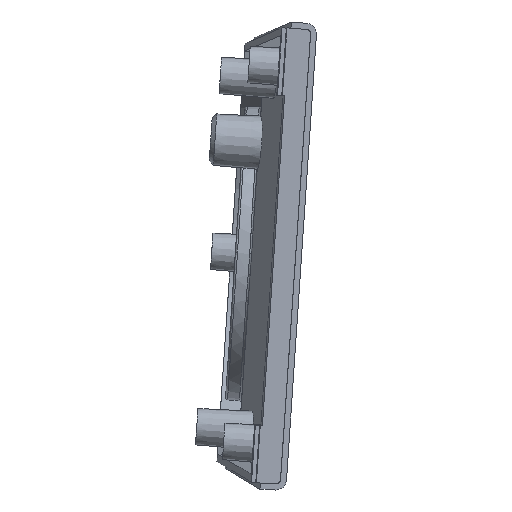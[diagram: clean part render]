
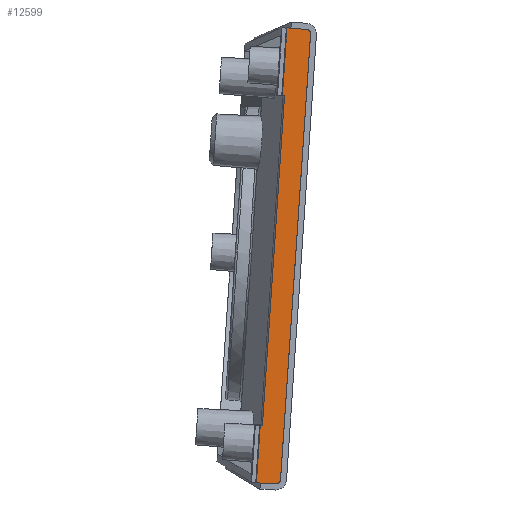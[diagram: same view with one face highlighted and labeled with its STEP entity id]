
A CAD part, front view. The second image highlights one B-rep face of the part: STEP entity #12599.
In plain terms, the highlighted planar face has unit normal (-0.017, -1, 0.001).
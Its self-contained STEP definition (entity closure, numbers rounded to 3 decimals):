
#1 = VECTOR ( 'NONE', #9922, 1000. ) ;
#610 = VERTEX_POINT ( 'NONE', #11545 ) ;
#686 = CARTESIAN_POINT ( 'NONE',  ( -68.91, -44.251, 128.728 ) ) ;
#789 = ORIENTED_EDGE ( 'NONE', *, *, #3474, .T. ) ;
#840 = DIRECTION ( 'NONE',  ( -1., 0.017, 0. ) ) ;
#842 = LINE ( 'NONE', #12678, #1853 ) ;
#1006 = VECTOR ( 'NONE', #4846, 1000. ) ;
#1052 = DIRECTION ( 'NONE',  ( 0.999, -0.017, -0.051 ) ) ;
#1086 = CARTESIAN_POINT ( 'NONE',  ( -63.845, -44.233, 218.986 ) ) ;
#1164 = LINE ( 'NONE', #11381, #10561 ) ;
#1202 = EDGE_CURVE ( 'NONE', #7724, #14503, #12303, .T. ) ;
#1259 = VECTOR ( 'NONE', #13420, 1000. ) ;
#1398 = LINE ( 'NONE', #16370, #1 ) ;
#1410 = ORIENTED_EDGE ( 'NONE', *, *, #14074, .F. ) ;
#1430 = VERTEX_POINT ( 'NONE', #13160 ) ;
#1651 = FACE_OUTER_BOUND ( 'NONE', #16613, .T. ) ;
#1796 = CARTESIAN_POINT ( 'NONE',  ( -68.516, -44.242, 142.126 ) ) ;
#1853 = VECTOR ( 'NONE', #8810, 1000. ) ;
#2080 = EDGE_CURVE ( 'NONE', #610, #13679, #1164, .T. ) ;
#2224 = CARTESIAN_POINT ( 'NONE',  ( -57.378, -44.328, 233.865 ) ) ;
#2493 = ORIENTED_EDGE ( 'NONE', *, *, #2080, .T. ) ;
#2679 = LINE ( 'NONE', #5944, #1006 ) ;
#2721 = CARTESIAN_POINT ( 'NONE',  ( -69.915, -44.233, 128.779 ) ) ;
#2740 = CARTESIAN_POINT ( 'NONE',  ( -64.317, -44.33, 129.209 ) ) ;
#2864 = ORIENTED_EDGE ( 'NONE', *, *, #12028, .F. ) ;
#3032 = VERTEX_POINT ( 'NONE', #3094 ) ;
#3094 = CARTESIAN_POINT ( 'NONE',  ( -64.299, -44.33, 129.465 ) ) ;
#3474 = EDGE_CURVE ( 'NONE', #15383, #1430, #12629, .T. ) ;
#3528 = LINE ( 'NONE', #6660, #7992 ) ;
#3558 = CARTESIAN_POINT ( 'NONE',  ( -57.713, -44.322, 234.253 ) ) ;
#3636 = CARTESIAN_POINT ( 'NONE',  ( -61.779, -44.251, 234.701 ) ) ;
#3712 = VECTOR ( 'NONE', #10245, 1000. ) ;
#3732 = CARTESIAN_POINT ( 'NONE',  ( -57.292, -44.33, 233.607 ) ) ;
#3736 = VECTOR ( 'NONE', #12974, 1000. ) ;
#4268 = DIRECTION ( 'NONE',  ( -0.998, 0.017, 0.067 ) ) ;
#4271 = CARTESIAN_POINT ( 'NONE',  ( -68.911, -44.251, 128.726 ) ) ;
#4303 = VERTEX_POINT ( 'NONE', #3636 ) ;
#4309 = VECTOR ( 'NONE', #12756, 1000. ) ;
#4332 = CARTESIAN_POINT ( 'NONE',  ( -68.516, -44.242, 142.126 ) ) ;
#4622 = DIRECTION ( 'NONE',  ( 0.067, 0., 0.998 ) ) ;
#4755 = LINE ( 'NONE', #10265, #3736 ) ;
#4846 = DIRECTION ( 'NONE',  ( 0.073, 0., 0.997 ) ) ;
#5143 = ORIENTED_EDGE ( 'NONE', *, *, #14559, .F. ) ;
#5230 = EDGE_CURVE ( 'NONE', #7759, #14523, #15368, .T. ) ;
#5469 = ORIENTED_EDGE ( 'NONE', *, *, #8444, .F. ) ;
#5549 = VERTEX_POINT ( 'NONE', #686 ) ;
#5944 = CARTESIAN_POINT ( 'NONE',  ( -61.779, -44.251, 234.699 ) ) ;
#6237 = PLANE ( 'NONE',  #12669 ) ;
#6297 = CARTESIAN_POINT ( 'NONE',  ( -63.845, -44.233, 218.986 ) ) ;
#6301 = CARTESIAN_POINT ( 'NONE',  ( -57.962, -44.317, 234.38 ) ) ;
#6366 = VERTEX_POINT ( 'NONE', #6749 ) ;
#6625 = ORIENTED_EDGE ( 'NONE', *, *, #13257, .F. ) ;
#6660 = CARTESIAN_POINT ( 'NONE',  ( -63.845, -44.233, 218.986 ) ) ;
#6749 = CARTESIAN_POINT ( 'NONE',  ( -62.782, -44.233, 234.783 ) ) ;
#6820 = ORIENTED_EDGE ( 'NONE', *, *, #10316, .T. ) ;
#7466 = EDGE_CURVE ( 'NONE', #14503, #4303, #1398, .T. ) ;
#7547 = CARTESIAN_POINT ( 'NONE',  ( -57.309, -44.33, 233.351 ) ) ;
#7579 = CARTESIAN_POINT ( 'NONE',  ( -63.346, -44.242, 218.952 ) ) ;
#7714 = EDGE_CURVE ( 'NONE', #13679, #3032, #10593, .T. ) ;
#7724 = VERTEX_POINT ( 'NONE', #16994 ) ;
#7759 = VERTEX_POINT ( 'NONE', #6297 ) ;
#7768 = CARTESIAN_POINT ( 'NONE',  ( -64.437, -44.328, 128.965 ) ) ;
#7992 = VECTOR ( 'NONE', #14566, 1000. ) ;
#8194 = LINE ( 'NONE', #4271, #1259 ) ;
#8444 = EDGE_CURVE ( 'NONE', #9660, #4303, #2679, .T. ) ;
#8699 = VECTOR ( 'NONE', #4268, 1000. ) ;
#8730 = VERTEX_POINT ( 'NONE', #15661 ) ;
#8810 = DIRECTION ( 'NONE',  ( 0.996, -0.017, -0.084 ) ) ;
#8906 = CARTESIAN_POINT ( 'NONE',  ( -69.915, -44.233, 128.779 ) ) ;
#8916 = ORIENTED_EDGE ( 'NONE', *, *, #5230, .T. ) ;
#9392 = LINE ( 'NONE', #8906, #3712 ) ;
#9660 = VERTEX_POINT ( 'NONE', #11930 ) ;
#9922 = DIRECTION ( 'NONE',  ( -0.996, 0.017, 0.084 ) ) ;
#10245 = DIRECTION ( 'NONE',  ( 0.999, -0.017, -0.051 ) ) ;
#10265 = CARTESIAN_POINT ( 'NONE',  ( -68.516, -44.242, 142.126 ) ) ;
#10316 = EDGE_CURVE ( 'NONE', #8730, #5549, #9392, .T. ) ;
#10355 = CARTESIAN_POINT ( 'NONE',  ( -58.225, -44.313, 234.403 ) ) ;
#10453 = LINE ( 'NONE', #2721, #13141 ) ;
#10561 = VECTOR ( 'NONE', #1052, 1000. ) ;
#10593 = B_SPLINE_CURVE_WITH_KNOTS ( 'NONE', 3,
 ( #14212, #13979, #15677, #7768, #2740, #15626 ),
 .UNSPECIFIED., .F., .F.,
 ( 4, 2, 4 ),
 ( 0., 0.001, 0.002 ),
 .UNSPECIFIED. ) ;
#11381 = CARTESIAN_POINT ( 'NONE',  ( -68.911, -44.251, 128.726 ) ) ;
#11545 = CARTESIAN_POINT ( 'NONE',  ( -68.911, -44.251, 128.726 ) ) ;
#11622 = ORIENTED_EDGE ( 'NONE', *, *, #7466, .T. ) ;
#11930 = CARTESIAN_POINT ( 'NONE',  ( -61.779, -44.251, 234.699 ) ) ;
#12028 = EDGE_CURVE ( 'NONE', #15383, #14523, #4755, .T. ) ;
#12276 = CARTESIAN_POINT ( 'NONE',  ( -64.299, -44.33, 129.465 ) ) ;
#12303 = B_SPLINE_CURVE_WITH_KNOTS ( 'NONE', 3,
 ( #7547, #3732, #2224, #3558, #6301, #14156 ),
 .UNSPECIFIED., .F., .F.,
 ( 4, 2, 4 ),
 ( 0., 0.001, 0.002 ),
 .UNSPECIFIED. ) ;
#12524 = ORIENTED_EDGE ( 'NONE', *, *, #1202, .T. ) ;
#12599 = ADVANCED_FACE ( 'NONE', ( #1651 ), #6237, .F. ) ;
#12629 = LINE ( 'NONE', #4332, #8699 ) ;
#12669 = AXIS2_PLACEMENT_3D ( 'NONE', #13902, #12755, #840 ) ;
#12678 = CARTESIAN_POINT ( 'NONE',  ( -62.782, -44.233, 234.783 ) ) ;
#12755 = DIRECTION ( 'NONE',  ( 0.017, 1., -0.001 ) ) ;
#12756 = DIRECTION ( 'NONE',  ( 0.998, -0.017, -0.067 ) ) ;
#12915 = VECTOR ( 'NONE', #4622, 1000. ) ;
#12974 = DIRECTION ( 'NONE',  ( 0.067, 0., 0.998 ) ) ;
#13141 = VECTOR ( 'NONE', #15923, 1000. ) ;
#13160 = CARTESIAN_POINT ( 'NONE',  ( -69.015, -44.233, 142.16 ) ) ;
#13257 = EDGE_CURVE ( 'NONE', #610, #5549, #8194, .T. ) ;
#13420 = DIRECTION ( 'NONE',  ( 0.062, 0., 0.998 ) ) ;
#13534 = ORIENTED_EDGE ( 'NONE', *, *, #7714, .T. ) ;
#13583 = ORIENTED_EDGE ( 'NONE', *, *, #16923, .T. ) ;
#13679 = VERTEX_POINT ( 'NONE', #15314 ) ;
#13723 = LINE ( 'NONE', #12276, #12915 ) ;
#13902 = CARTESIAN_POINT ( 'NONE',  ( -44.763, -44.356, 397.45 ) ) ;
#13979 = CARTESIAN_POINT ( 'NONE',  ( -65.084, -44.317, 128.532 ) ) ;
#14074 = EDGE_CURVE ( 'NONE', #6366, #9660, #842, .T. ) ;
#14156 = CARTESIAN_POINT ( 'NONE',  ( -58.225, -44.313, 234.403 ) ) ;
#14212 = CARTESIAN_POINT ( 'NONE',  ( -65.349, -44.313, 128.546 ) ) ;
#14503 = VERTEX_POINT ( 'NONE', #10355 ) ;
#14523 = VERTEX_POINT ( 'NONE', #7579 ) ;
#14559 = EDGE_CURVE ( 'NONE', #7759, #6366, #3528, .T. ) ;
#14566 = DIRECTION ( 'NONE',  ( 0.067, 0., 0.998 ) ) ;
#14624 = EDGE_CURVE ( 'NONE', #8730, #1430, #10453, .T. ) ;
#15314 = CARTESIAN_POINT ( 'NONE',  ( -65.349, -44.313, 128.546 ) ) ;
#15368 = LINE ( 'NONE', #1086, #4309 ) ;
#15383 = VERTEX_POINT ( 'NONE', #1796 ) ;
#15626 = CARTESIAN_POINT ( 'NONE',  ( -64.299, -44.33, 129.465 ) ) ;
#15661 = CARTESIAN_POINT ( 'NONE',  ( -69.915, -44.233, 128.779 ) ) ;
#15677 = CARTESIAN_POINT ( 'NONE',  ( -64.821, -44.322, 128.626 ) ) ;
#15923 = DIRECTION ( 'NONE',  ( 0.067, 0., 0.998 ) ) ;
#16359 = ORIENTED_EDGE ( 'NONE', *, *, #14624, .F. ) ;
#16370 = CARTESIAN_POINT ( 'NONE',  ( -58.225, -44.313, 234.403 ) ) ;
#16613 = EDGE_LOOP ( 'NONE', ( #5143, #8916, #2864, #789, #16359, #6820, #6625, #2493, #13534, #13583, #12524, #11622, #5469, #1410 ) ) ;
#16923 = EDGE_CURVE ( 'NONE', #3032, #7724, #13723, .T. ) ;
#16994 = CARTESIAN_POINT ( 'NONE',  ( -57.309, -44.33, 233.351 ) ) ;
